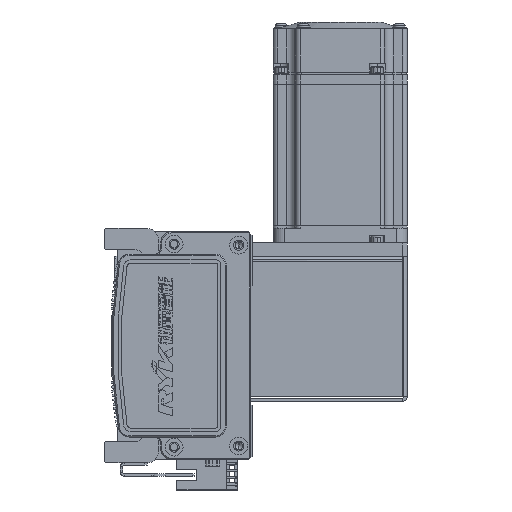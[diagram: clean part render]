
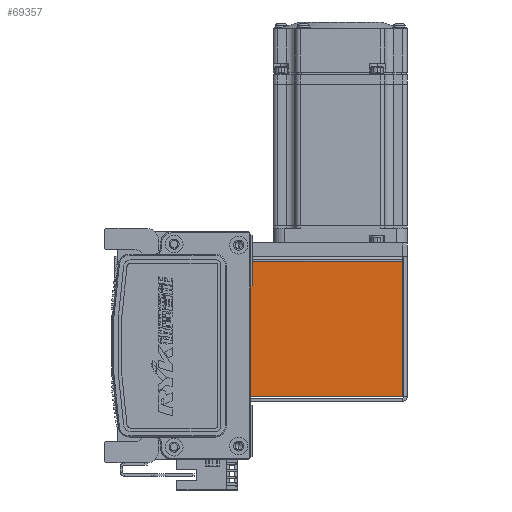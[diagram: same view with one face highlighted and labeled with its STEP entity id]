
A CAD part, left-side view. The second image highlights one B-rep face of the part: STEP entity #69357.
In plain terms, the highlighted planar face has unit normal (-1, 0, 0) as drawn and (0, 0, 1) by its records, which use the part's own axes.
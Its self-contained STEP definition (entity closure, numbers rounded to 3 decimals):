
#1042 = LINE ( 'NONE', #24292, #1913 ) ;
#1913 = VECTOR ( 'NONE', #50799, 1000. ) ;
#4490 = EDGE_LOOP ( 'NONE', ( #15007, #15971, #46158, #17812 ) ) ;
#6722 = PLANE ( 'NONE',  #60007 ) ;
#7059 = LINE ( 'NONE', #12027, #66499 ) ;
#10685 = CARTESIAN_POINT ( 'NONE',  ( -32.5, 0.737, 35. ) ) ;
#10918 = DIRECTION ( 'NONE',  ( -1., 0., 0. ) ) ;
#12027 = CARTESIAN_POINT ( 'NONE',  ( -30.293, 0., 35. ) ) ;
#14705 = EDGE_CURVE ( 'NONE', #24014, #56713, #56537, .T. ) ;
#15007 = ORIENTED_EDGE ( 'NONE', *, *, #14705, .T. ) ;
#15971 = ORIENTED_EDGE ( 'NONE', *, *, #66562, .T. ) ;
#16284 = CARTESIAN_POINT ( 'NONE',  ( -30.293, 0.737, 35. ) ) ;
#17812 = ORIENTED_EDGE ( 'NONE', *, *, #53578, .F. ) ;
#22437 = CARTESIAN_POINT ( 'NONE',  ( 0., 0., 35. ) ) ;
#23095 = CARTESIAN_POINT ( 'NONE',  ( 30.263, 0.737, 35. ) ) ;
#24014 = VERTEX_POINT ( 'NONE', #23095 ) ;
#24292 = CARTESIAN_POINT ( 'NONE',  ( 0., 72.5, 35. ) ) ;
#27625 = EDGE_CURVE ( 'NONE', #57454, #29072, #7059, .T. ) ;
#27880 = VECTOR ( 'NONE', #10918, 1000. ) ;
#29072 = VERTEX_POINT ( 'NONE', #31850 ) ;
#30332 = FACE_OUTER_BOUND ( 'NONE', #4490, .T. ) ;
#31850 = CARTESIAN_POINT ( 'NONE',  ( -30.293, 72.5, 35. ) ) ;
#37027 = DIRECTION ( 'NONE',  ( 0., 1., 0. ) ) ;
#42236 = VECTOR ( 'NONE', #37027, 1000. ) ;
#43956 = DIRECTION ( 'NONE',  ( 0., 0., -1. ) ) ;
#46158 = ORIENTED_EDGE ( 'NONE', *, *, #27625, .F. ) ;
#50799 = DIRECTION ( 'NONE',  ( -1., 0., 0. ) ) ;
#52789 = CARTESIAN_POINT ( 'NONE',  ( 30.263, 0.737, 35. ) ) ;
#53578 = EDGE_CURVE ( 'NONE', #24014, #57454, #58092, .T. ) ;
#56537 = LINE ( 'NONE', #52789, #42236 ) ;
#56713 = VERTEX_POINT ( 'NONE', #69352 ) ;
#57454 = VERTEX_POINT ( 'NONE', #16284 ) ;
#58092 = LINE ( 'NONE', #10685, #27880 ) ;
#60007 = AXIS2_PLACEMENT_3D ( 'NONE', #22437, #43956, #65249 ) ;
#60930 = DIRECTION ( 'NONE',  ( 0., 1., 0. ) ) ;
#65249 = DIRECTION ( 'NONE',  ( -1., 0., 0. ) ) ;
#66499 = VECTOR ( 'NONE', #60930, 1000. ) ;
#66562 = EDGE_CURVE ( 'NONE', #56713, #29072, #1042, .T. ) ;
#69352 = CARTESIAN_POINT ( 'NONE',  ( 30.263, 72.5, 35. ) ) ;
#69357 = ADVANCED_FACE ( 'NONE', ( #30332 ), #6722, .F. ) ;
